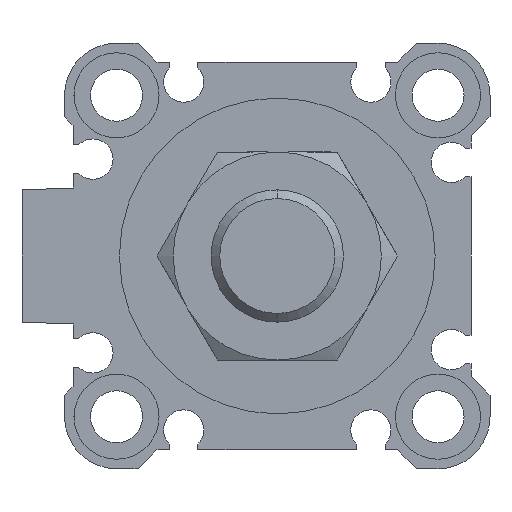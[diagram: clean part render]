
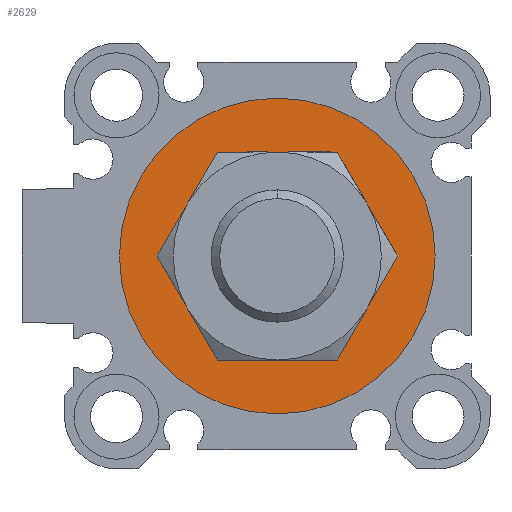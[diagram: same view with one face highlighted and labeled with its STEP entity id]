
A CAD part, left-side view. The second image highlights one B-rep face of the part: STEP entity #2629.
In plain terms, the highlighted planar face has unit normal (-1, 0, 0).
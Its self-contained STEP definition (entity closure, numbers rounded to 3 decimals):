
#85 = FACE_BOUND ( 'NONE', #4965, .T. ) ;
#234 = ORIENTED_EDGE ( 'NONE', *, *, #6631, .F. ) ;
#407 = CARTESIAN_POINT ( 'NONE',  ( 2.1, 0., 0. ) ) ;
#549 = DIRECTION ( 'NONE',  ( 0., 0., -1. ) ) ;
#578 = CIRCLE ( 'NONE', #2046, 10.5 ) ;
#582 = CARTESIAN_POINT ( 'NONE',  ( 2.1, 0., 0. ) ) ;
#649 = DIRECTION ( 'NONE',  ( 0., 1., 0. ) ) ;
#882 = EDGE_CURVE ( 'NONE', #3497, #2929, #578, .T. ) ;
#1562 = AXIS2_PLACEMENT_3D ( 'NONE', #4833, #6999, #549 ) ;
#1675 = CIRCLE ( 'NONE', #1562, 16.7 ) ;
#1918 = VERTEX_POINT ( 'NONE', #6507 ) ;
#2038 = DIRECTION ( 'NONE',  ( 1., 0., 0. ) ) ;
#2046 = AXIS2_PLACEMENT_3D ( 'NONE', #6281, #6850, #6355 ) ;
#2233 = ORIENTED_EDGE ( 'NONE', *, *, #882, .T. ) ;
#2485 = EDGE_LOOP ( 'NONE', ( #5670, #234 ) ) ;
#2629 = ADVANCED_FACE ( 'NONE', ( #2672, #85 ), #5497, .F. ) ;
#2672 = FACE_OUTER_BOUND ( 'NONE', #2485, .T. ) ;
#2740 = EDGE_CURVE ( 'NONE', #5665, #1918, #1675, .T. ) ;
#2769 = AXIS2_PLACEMENT_3D ( 'NONE', #5949, #5384, #4244 ) ;
#2929 = VERTEX_POINT ( 'NONE', #5002 ) ;
#3137 = AXIS2_PLACEMENT_3D ( 'NONE', #407, #2038, #4199 ) ;
#3497 = VERTEX_POINT ( 'NONE', #6037 ) ;
#3791 = CIRCLE ( 'NONE', #2769, 10.5 ) ;
#4199 = DIRECTION ( 'NONE',  ( 0., 0., -1. ) ) ;
#4244 = DIRECTION ( 'NONE',  ( 0., 0., -1. ) ) ;
#4295 = DIRECTION ( 'NONE',  ( 1., 0., 0. ) ) ;
#4387 = EDGE_CURVE ( 'NONE', #2929, #3497, #3791, .T. ) ;
#4833 = CARTESIAN_POINT ( 'NONE',  ( 2.1, 0., 0. ) ) ;
#4846 = AXIS2_PLACEMENT_3D ( 'NONE', #582, #4295, #649 ) ;
#4871 = CARTESIAN_POINT ( 'NONE',  ( 2.1, 0., 16.7 ) ) ;
#4965 = EDGE_LOOP ( 'NONE', ( #2233, #6297 ) ) ;
#5002 = CARTESIAN_POINT ( 'NONE',  ( 2.1, 0., -10.5 ) ) ;
#5384 = DIRECTION ( 'NONE',  ( 1., 0., 0. ) ) ;
#5497 = PLANE ( 'NONE',  #4846 ) ;
#5665 = VERTEX_POINT ( 'NONE', #4871 ) ;
#5670 = ORIENTED_EDGE ( 'NONE', *, *, #2740, .F. ) ;
#5949 = CARTESIAN_POINT ( 'NONE',  ( 2.1, 0., 0. ) ) ;
#6037 = CARTESIAN_POINT ( 'NONE',  ( 2.1, 0., 10.5 ) ) ;
#6281 = CARTESIAN_POINT ( 'NONE',  ( 2.1, 0., 0. ) ) ;
#6297 = ORIENTED_EDGE ( 'NONE', *, *, #4387, .T. ) ;
#6355 = DIRECTION ( 'NONE',  ( 0., 0., -1. ) ) ;
#6507 = CARTESIAN_POINT ( 'NONE',  ( 2.1, 0., -16.7 ) ) ;
#6631 = EDGE_CURVE ( 'NONE', #1918, #5665, #6636, .T. ) ;
#6636 = CIRCLE ( 'NONE', #3137, 16.7 ) ;
#6850 = DIRECTION ( 'NONE',  ( 1., 0., 0. ) ) ;
#6999 = DIRECTION ( 'NONE',  ( 1., 0., 0. ) ) ;
